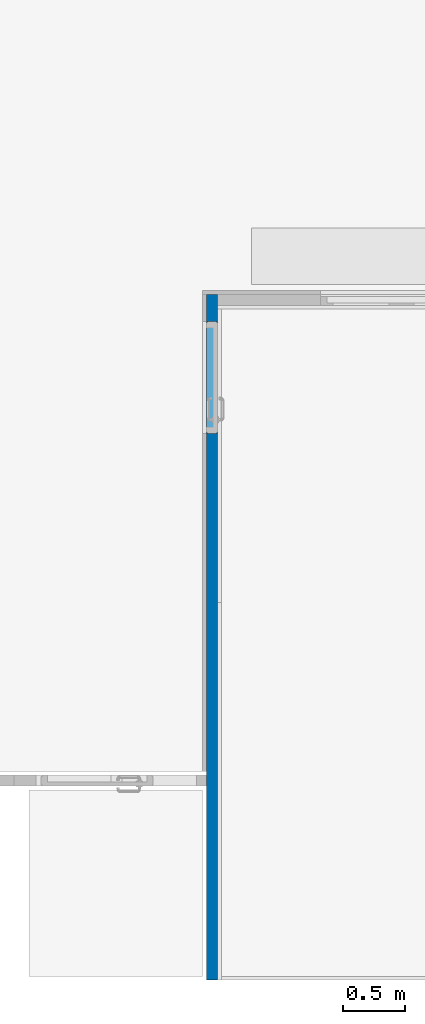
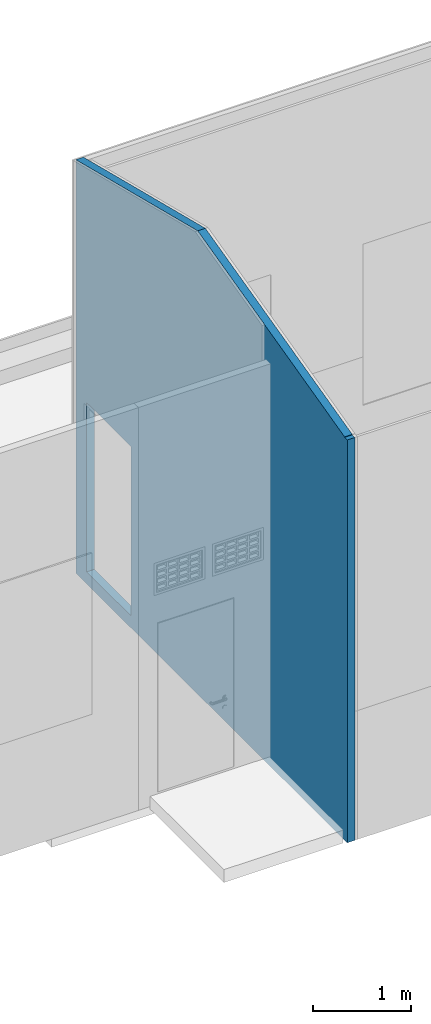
# One storey, part 3 of 5: 1 wall, 1 opening.
"""IFC2X3 building model written with IfcOpenShell, lengths in metres."""

from ifc_helpers import new_model, entity, si_unit, converted_unit, derived_unit, direction, frame, frame_2d, origin, place, context, subcontext, project, spatial, polyline, rectangle, extrude, clip, bounded_halfspace, material, layer, layer_set, layer_usage, type_object, element, save


model = new_model("IFC2X3")

# Units and contexts
model_context = context("Model", 3, precision=1e-05, world=origin(), true_north=direction((6.12303176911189e-17, 1.0)))
body_context = subcontext(model_context, "Body", "Model", "MODEL_VIEW")
ifc_project = project(units=[si_unit("LENGTHUNIT", "METRE"), si_unit("AREAUNIT", "SQUARE_METRE"), si_unit("VOLUMEUNIT", "CUBIC_METRE"), converted_unit("PLANEANGLEUNIT", "DEGREE", entity("IfcRatioMeasure", 0.0174532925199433), si_unit("PLANEANGLEUNIT", "RADIAN"), dimensions=[0, 0, 0, 0, 0, 0, 0]), si_unit("MASSUNIT", "GRAM", prefix="KILO"), derived_unit("MASSDENSITYUNIT", [(si_unit("MASSUNIT", "GRAM", prefix="KILO"), 1), (si_unit("LENGTHUNIT", "METRE"), -3)]), si_unit("TIMEUNIT", "SECOND"), si_unit("FREQUENCYUNIT", "HERTZ"), si_unit("THERMODYNAMICTEMPERATUREUNIT", "DEGREE_CELSIUS"), derived_unit("THERMALTRANSMITTANCEUNIT", [(si_unit("MASSUNIT", "GRAM", prefix="KILO"), 1), (si_unit("THERMODYNAMICTEMPERATUREUNIT", "KELVIN"), -1), (si_unit("TIMEUNIT", "SECOND"), -3)]), derived_unit("VOLUMETRICFLOWRATEUNIT", [(si_unit("LENGTHUNIT", "METRE"), 3), (si_unit("TIMEUNIT", "SECOND"), -1)]), si_unit("ELECTRICCURRENTUNIT", "AMPERE"), si_unit("ELECTRICVOLTAGEUNIT", "VOLT"), si_unit("POWERUNIT", "WATT"), si_unit("FORCEUNIT", "NEWTON", prefix="KILO"), si_unit("ILLUMINANCEUNIT", "LUX"), si_unit("LUMINOUSFLUXUNIT", "LUMEN"), si_unit("LUMINOUSINTENSITYUNIT", "CANDELA"), derived_unit("USERDEFINED", [(si_unit("MASSUNIT", "GRAM", prefix="KILO"), -1), (si_unit("LENGTHUNIT", "METRE"), -2), (si_unit("TIMEUNIT", "SECOND"), 3), (si_unit("LUMINOUSFLUXUNIT", "LUMEN"), 1)]), derived_unit("LINEARVELOCITYUNIT", [(si_unit("LENGTHUNIT", "METRE"), 1), (si_unit("TIMEUNIT", "SECOND"), -1)]), si_unit("PRESSUREUNIT", "PASCAL"), derived_unit("USERDEFINED", [(si_unit("LENGTHUNIT", "METRE"), -2), (si_unit("MASSUNIT", "GRAM", prefix="KILO"), 1), (si_unit("TIMEUNIT", "SECOND"), -2)])], contexts=[model_context])

# Site, building, storey
site_placement = place(None, frame((26.9889013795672, -17.5624287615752, 0.0)))
site = spatial("IfcSite", under=ifc_project, at=site_placement, Name="Default", CompositionType="ELEMENT")
building_placement = place(site_placement, origin())
building = spatial("IfcBuilding", under=site, at=building_placement, Name="C. C. L. Monsenhor Antônio Sampaio", CompositionType="ELEMENT")
storey_placement = place(building_placement, frame((0.0, 0.0, 0.799999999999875)))
storey = spatial("IfcBuildingStorey", under=building, at=storey_placement, Name="Nível 0.8", CompositionType="ELEMENT", Elevation=0.799999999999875)

# Wall, opening
ifc_material = material(Name="ALVENARIA")
ifc_layer = layer(ifc_material, 0.09)
ifc_layer_set = layer_set([ifc_layer], Name="Parede básica:ENucleo parede 15cm")
ifc_layer_usage = layer_usage(ifc_layer_set, "AXIS2", "POSITIVE", -0.045)
wall_type = type_object("IfcWallType", Name="Parede básica:ENucleo parede 15cm", PredefinedType="STANDARD", material=ifc_layer_set)
wall_placement = place(storey_placement, frame((3.80437716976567, -28.333066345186, 0.0), z_axis=(0.0, 0.0, 1.0), x_axis=(0.0, 1.0, 0.0)))
wall = element("IfcWallStandardCase", 1, at=wall_placement, inside=storey, type_object=wall_type, material=ifc_layer_usage, Name="Parede básica:ENucleo parede 15cm", ObjectType="Parede básica:ENucleo parede 15cm", context=body_context, shape_type="Clipping", body=[
    clip(clip(clip(extrude(rectangle(XDim=5.52, YDim=0.0900000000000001, at=frame_2d((2.76, 1.80411241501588e-16), x_axis=(-1.0, 0.0))), origin(), (0.0, 0.0, 1.0), 5.75250000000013), bounded_halfspace(frame((0.0542535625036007, -0.0449999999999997, 5.00606339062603), z_axis=(-0.242535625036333, 0.0, 0.970142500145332), x_axis=(0.0, -1.0, 0.0)), False, frame((0.0542535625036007, -0.0449999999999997, 5.00606339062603)), polyline([(0.0, 0.0), (2.98574643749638, 0.0), (2.98574643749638, 0.0900000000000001), (1.62574643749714, 0.0900000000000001), (0.0, 0.0900000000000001), (0.0, 0.0)]))), bounded_halfspace(frame((3.03999999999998, -0.0449999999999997, 5.75250000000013), z_axis=(0.242535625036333, 0.0, 0.970142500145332), x_axis=(0.0, 1.0, 0.0)), False, frame((3.03999999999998, -0.0449999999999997, 5.75250000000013)), polyline([(0.0, 0.0), (2.36000000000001, 0.0), (2.39000000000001, 0.0), (2.48000000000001, 0.0), (2.48000000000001, 0.0900000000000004), (0.0, 0.0900000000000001), (0.0, 0.0)]))), bounded_halfspace(frame((0.0, -0.0449999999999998, 5.0), z_axis=(0.0, 0.0, 1.0), x_axis=(0.0, 1.0, 0.0)), False, frame((0.0, -0.0449999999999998, 5.0)), polyline([(0.0, 0.0), (0.0542535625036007, 0.0), (0.0542535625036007, 0.0899999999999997), (0.0300000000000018, 0.0900000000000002), (0.0, 0.0900000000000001), (0.0, 0.0)]))),
])
opening_placement = place(wall_placement, frame((5.3, 0.0449999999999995, 0.15)))
element("IfcOpeningElement", 2, at=opening_placement, cuts=wall, Name="Porta levantamento:90 x 211 AZUL:1", ObjectType="Opening", context=body_context, shape_type="SweptSolid", body=[
    extrude(rectangle(XDim=2.09999999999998, YDim=0.9, at=frame_2d((1.04999999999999, 0.450000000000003), x_axis=(1.0, 0.0))), frame((0.0, 0.0, 0.0), z_axis=(0.0, -1.0, 0.0), x_axis=(0.0, 0.0, 1.0)), (0.0, 0.0, 1.0), 0.09),
])

save(model, "model.ifc")
